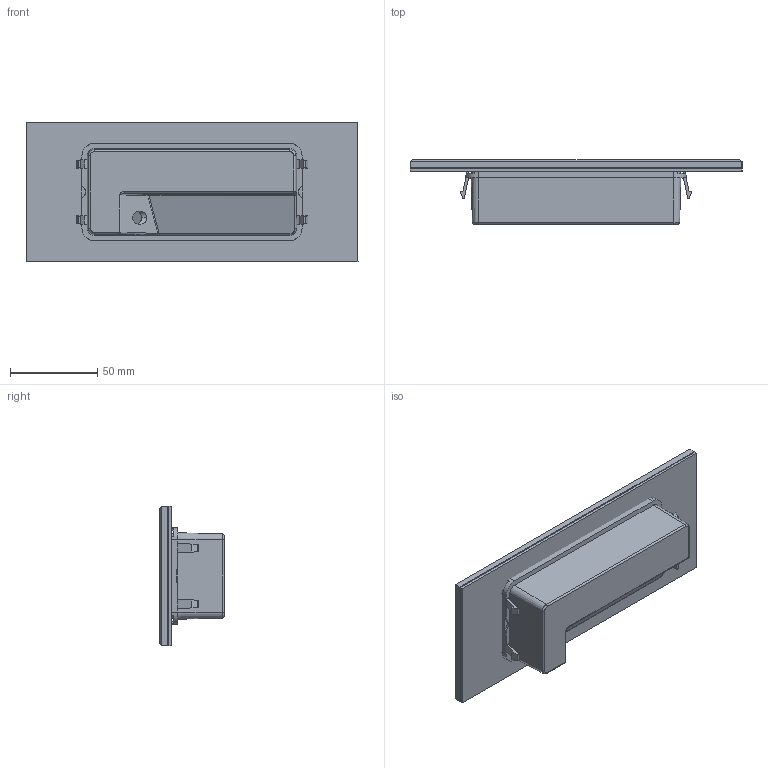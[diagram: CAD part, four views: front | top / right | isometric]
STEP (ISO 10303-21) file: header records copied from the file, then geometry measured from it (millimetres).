
FILE_DESCRIPTION(/* description */ (''),/* implementation_level */ '2;1');
FILE_NAME(/* name */ 'C:\Users\francosartori\Documents\Modelos\01_Digitalizados\0_DART\03_Publicación\70278 - Vista 3D - View 1.stp',/* time_stamp */ '2020-06-23T14:02:42+02:00',/* author */ ('FrancoSartori'),/* organization */ (''),/* preprocessor_version */ 'ST-DEVELOPER v18.1',/* originating_system */ 'AutoCAD Mechanical',/* authorisation */ '');
FILE_SCHEMA (('AUTOMOTIVE_DESIGN { 1 0 10303 214 3 1 1 }'));
Length unit declared in the file: millimetre
Products named in the file (2): Product; 70277_70278_DART2 - DART 2-396179-View 1
Assembly tree (1 placements, depth 2):
  Product
    70277_70278_DART2 - DART 2-396179-View 1
Bounding box: 190 x 36.7 x 80 mm (x, y, z)
Volume: 92823.7 mm3; surface area: 105106 mm2
Topology: 2 solids, 4 shells, 393 faces, 1017 edges, 618 vertices
Faces by surface type: plane 178, cylinder 138, bspline 34, cone 22, sphere 17, torus 4
Entity records: 14349 total; most frequent: CARTESIAN_POINT 5340, ORIENTED_EDGE 1987, DIRECTION 1612, EDGE_CURVE 1016, VERTEX_POINT 618, LINE 616, VECTOR 616, AXIS2_PLACEMENT_3D 498
